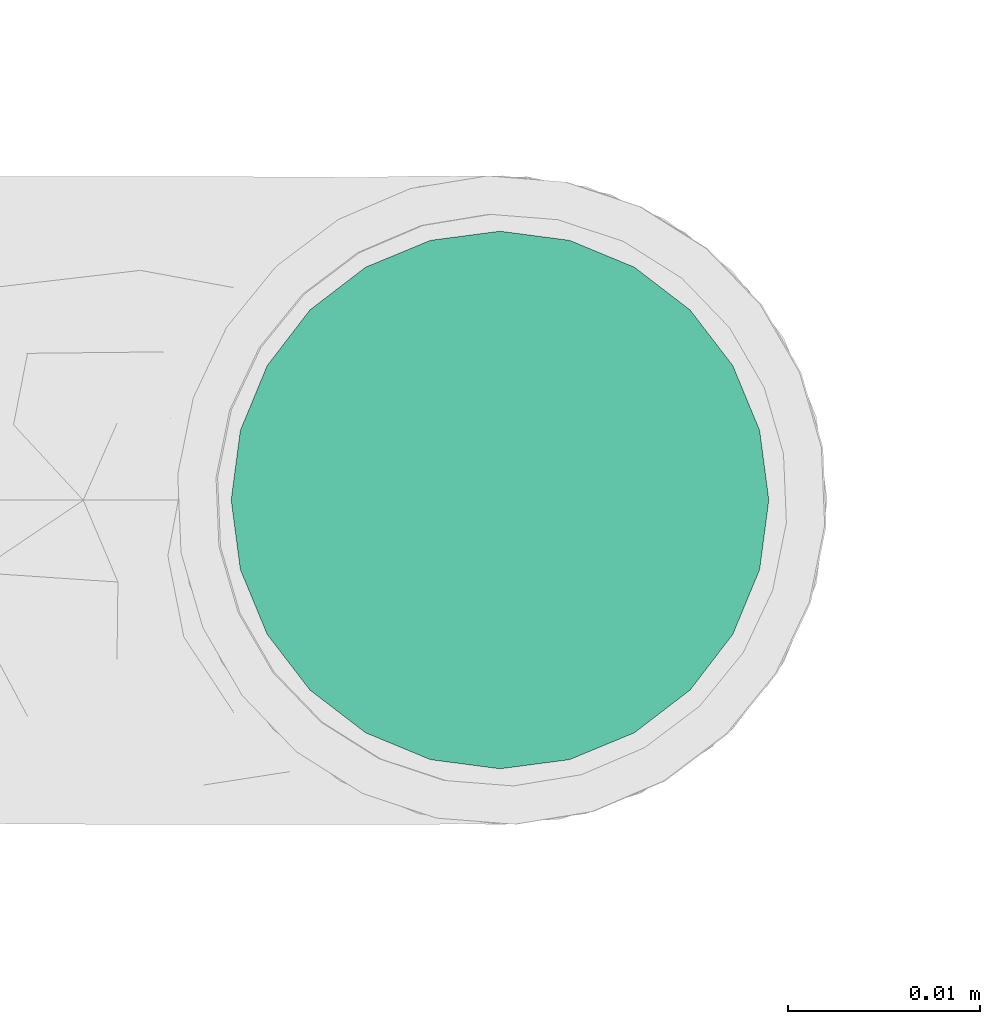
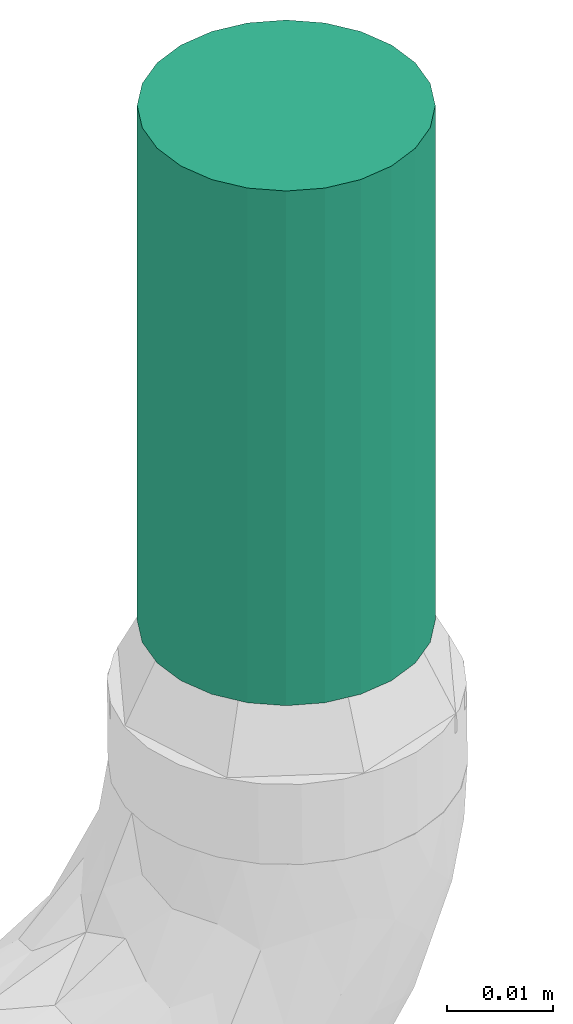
# One storey, part 39 of 43: 1 flow terminal.
"""IFC2X3 building model written with IfcOpenShell, lengths in millimetres."""

from ifc_helpers import new_model, entity, si_unit, converted_unit, derived_unit, direction, frame, origin_with_axes, place, context, subcontext, project, spatial, open_shell, surface_model, source, transform, mapped, type_object, element, save


model = new_model("IFC2X3")

# Units and contexts
model_context = context("Model", 3, precision=0.01, world=frame((0.0, 4.29681676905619e-09, 0.0)), true_north=direction((4.01073788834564e-13, 1.0)))
plan_context = context("Plan", 3, precision=0.01, world=frame((0.0, 4.29681676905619e-09, 0.0)), true_north=direction((4.01073788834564e-13, 1.0)))
body_context = subcontext(model_context, "Body", "Model", "MODEL_VIEW")
ifc_project = project(units=[converted_unit("PLANEANGLEUNIT", "DEGREE", entity("IfcPositiveLengthMeasure", 0.0174532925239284), si_unit("PLANEANGLEUNIT", "RADIAN"), dimensions=[0, 0, 0, 0, 0, 0, 0]), si_unit("AREAUNIT", "SQUARE_METRE"), si_unit("LENGTHUNIT", "METRE", prefix="MILLI"), si_unit("MASSUNIT", "GRAM", prefix="KILO"), si_unit("POWERUNIT", "WATT"), si_unit("PRESSUREUNIT", "PASCAL"), si_unit("FORCEUNIT", "NEWTON", prefix="KILO"), si_unit("ELECTRICVOLTAGEUNIT", "VOLT"), si_unit("ELECTRICCURRENTUNIT", "AMPERE"), si_unit("THERMODYNAMICTEMPERATUREUNIT", "DEGREE_CELSIUS"), si_unit("TIMEUNIT", "SECOND"), si_unit("VOLUMEUNIT", "CUBIC_METRE"), derived_unit("LINEARVELOCITYUNIT", [(si_unit("LENGTHUNIT", "METRE"), 1), (si_unit("TIMEUNIT", "SECOND"), -1)]), derived_unit("VOLUMETRICFLOWRATEUNIT", [(si_unit("VOLUMEUNIT", "CUBIC_METRE"), 1), (si_unit("TIMEUNIT", "SECOND"), -1)]), derived_unit("THERMALTRANSMITTANCEUNIT", [(si_unit("POWERUNIT", "WATT"), 1), (si_unit("THERMODYNAMICTEMPERATUREUNIT", "KELVIN"), -1), (si_unit("AREAUNIT", "SQUARE_METRE"), -1)]), derived_unit("SOUNDPRESSUREUNIT", [(si_unit("PRESSUREUNIT", "PASCAL"), 1)])], contexts=[model_context, plan_context])

# Site, building, storey
site_placement = place(None, frame((0.0, -4.29681676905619e-09, 0.0), z_axis=(0.0, 0.0, 1.0), x_axis=(1.0, 0.0, 0.0)))
site = spatial("IfcSite", under=ifc_project, at=site_placement, CompositionType="ELEMENT")
building_placement = place(site_placement, frame((0.0, 4.29681676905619e-09, 0.0), z_axis=(0.0, 0.0, 1.0), x_axis=(1.0, 0.0, 0.0)))
building = spatial("IfcBuilding", under=site, at=building_placement, Name="mc-building", CompositionType="ELEMENT")
storey_placement = place(building_placement, frame((0.0, 0.0, 210900.0), z_axis=(0.0, 0.0, 1.0), x_axis=(1.0, 0.0, 0.0)))
storey = spatial("IfcBuildingStorey", under=building, at=storey_placement, Name="Nivå F", CompositionType="ELEMENT", Elevation=210900.0)

# Flow terminal
fire_suppression_terminal_type = type_object("IfcFireSuppressionTerminalType", Name="SU-20-K115-68DGR-STD", PredefinedType="NOTDEFINED")
shared_shape = source(origin_with_axes(), body_context, "Body", "SurfaceModel", [
    surface_model("IfcShellBasedSurfaceModel", [(3.62347, -13.52296, 59.0), (-3.62347, -13.52296, 59.0), (0.0, -14.0, 59.0), (12.12436, -7.0, 59.0), (7.0, -12.12436, 59.0), (-9.89949, -9.89949, 59.0), (13.52296, 3.62347, 59.0), (9.89949, -9.89949, 59.0), (-7.0, -12.12436, 59.0), (-12.12436, -7.0, 59.0), (-14.0, 0.0, 59.0), (-13.52296, -3.62347, 59.0), (-13.52296, 3.62347, 59.0), (13.52296, -3.62347, 59.0), (14.0, 0.0, 59.0), (9.89949, 9.89949, 59.0), (12.12436, 7.0, 59.0), (7.0, 12.12436, 59.0), (3.62347, 13.52296, 59.0), (-9.89949, 9.89949, 59.0), (-12.12436, 7.0, 59.0), (0.0, 14.0, 59.0), (-3.62347, 13.52296, 59.0), (-7.0, 12.12436, 59.0), (9.89949, 9.89949, 0.0), (0.0, 14.0, 0.0), (3.62347, 13.52296, 0.0), (7.0, 12.12436, 0.0), (12.12436, 7.0, 0.0), (13.52296, 3.62347, 0.0), (-9.89949, -9.89949, 0.0), (-3.62347, 13.52296, 0.0), (-9.89949, 9.89949, 0.0), (-7.0, 12.12436, 0.0), (-13.52296, 3.62347, 0.0), (-12.12436, 7.0, 0.0), (-14.0, 0.0, 0.0), (3.62347, -13.52296, 0.0), (14.0, 0.0, 0.0), (13.52296, -3.62347, 0.0), (12.12436, -7.0, 0.0), (7.0, -12.12436, 0.0), (9.89949, -9.89949, 0.0), (-12.12436, -7.0, 0.0), (-13.52296, -3.62347, 0.0), (-3.62347, -13.52296, 0.0), (-7.0, -12.12436, 0.0), (0.0, -14.0, 0.0)], [open_shell([[[0, 1, 2]], [[3, 0, 4]], [[5, 0, 6]], [[3, 4, 7]], [[6, 0, 3]], [[1, 5, 8]], [[1, 0, 5]], [[9, 10, 11]], [[10, 9, 5]], [[5, 12, 10]], [[3, 13, 14]], [[12, 5, 6]], [[15, 6, 16]], [[15, 17, 18]], [[15, 18, 6]], [[12, 6, 18]], [[12, 19, 20]], [[19, 12, 21]], [[19, 22, 23]], [[22, 19, 21]], [[12, 18, 21]], [[6, 3, 14]], [[24, 25, 26]], [[24, 26, 27]], [[24, 28, 29]], [[24, 29, 25]], [[30, 31, 25]], [[31, 32, 33]], [[32, 31, 34]], [[32, 34, 35]], [[36, 34, 30]], [[30, 34, 31]], [[25, 29, 37]], [[38, 39, 40]], [[37, 29, 40]], [[41, 37, 40]], [[41, 40, 42]], [[25, 37, 30]], [[36, 43, 44]], [[30, 43, 36]], [[30, 45, 46]], [[30, 37, 45]], [[47, 45, 37]], [[40, 29, 38]], [[11, 44, 43]], [[30, 9, 43]], [[8, 46, 45]], [[30, 46, 5]], [[1, 45, 47]], [[44, 10, 36]], [[44, 11, 10]], [[43, 9, 11]], [[30, 5, 9]], [[8, 5, 46]], [[45, 1, 8]], [[47, 2, 1]], [[0, 37, 41]], [[42, 4, 41]], [[3, 40, 39]], [[42, 40, 7]], [[13, 39, 38]], [[37, 0, 2]], [[41, 4, 0]], [[42, 7, 4]], [[40, 3, 7]], [[13, 3, 39]], [[38, 14, 13]], [[37, 2, 47]], [[6, 38, 29]], [[17, 27, 26]], [[27, 15, 24]], [[18, 26, 25]], [[29, 16, 6]], [[6, 14, 38]], [[28, 15, 16]], [[28, 24, 15]], [[15, 27, 17]], [[26, 18, 17]], [[28, 16, 29]], [[25, 21, 18]], [[22, 31, 33]], [[32, 23, 33]], [[20, 35, 34]], [[32, 35, 19]], [[12, 34, 36]], [[31, 22, 21]], [[33, 23, 22]], [[32, 19, 23]], [[35, 20, 19]], [[12, 20, 34]], [[36, 10, 12]], [[31, 21, 25]]])]),
])
flow_terminal_placement = place(storey_placement, frame((609676.54499, 697917.49148, 2709.99249999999), z_axis=(0.0, 0.0, 1.0), x_axis=(0.0, 1.0, 0.0)))
element("IfcFlowTerminal", 1, at=flow_terminal_placement, inside=storey, type_object=fire_suppression_terminal_type, Name="SU-20-K115-68DGR-STD", context=body_context, shape_type="MappedRepresentation", body=[
    mapped(shared_shape, transform((0.0, 0.0, 0.0), scale=1.0)),
])

save(model, "model.ifc")
